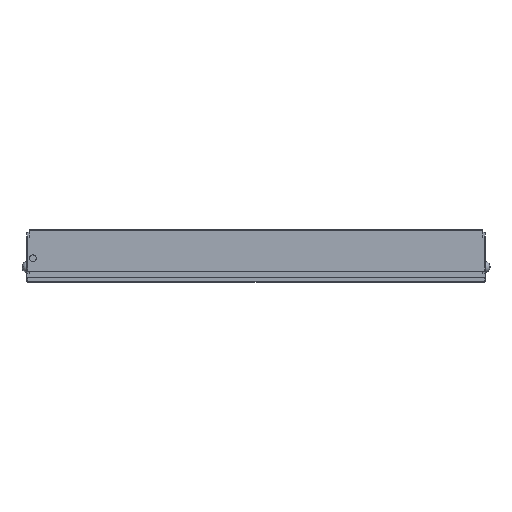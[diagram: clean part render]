
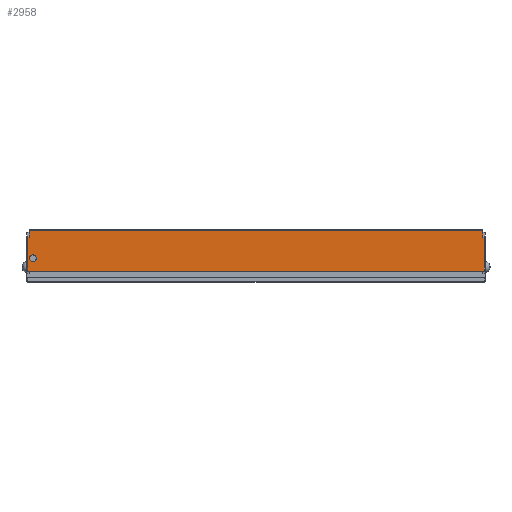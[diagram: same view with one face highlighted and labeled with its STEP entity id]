
A CAD part, top view. The second image highlights one B-rep face of the part: STEP entity #2958.
In plain terms, the highlighted planar face has unit normal (0, 0, 1) as drawn and (1, 0, 0) by its records, which use the part's own axes.
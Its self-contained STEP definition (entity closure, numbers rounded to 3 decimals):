
#332=DIRECTION('',(0.,1.,0.));
#333=VECTOR('',#332,17.499);
#334=CARTESIAN_POINT('',(9.,-4.3,-118.));
#335=LINE('',#334,#333);
#735=DIRECTION('',(0.,0.,1.));
#736=VECTOR('',#735,1.);
#737=CARTESIAN_POINT('',(9.,13.197,117.));
#738=LINE('',#737,#736);
#759=DIRECTION('',(0.,-1.,0.));
#760=VECTOR('',#759,3.303);
#761=CARTESIAN_POINT('',(9.,16.5,117.));
#762=LINE('',#761,#760);
#827=CARTESIAN_POINT('',(9.,2.3,115.25));
#828=DIRECTION('',(1.,0.,0.));
#829=DIRECTION('',(0.,0.,-1.));
#830=AXIS2_PLACEMENT_3D('',#827,#828,#829);
#832=CARTESIAN_POINT('',(9.,2.3,115.25));
#833=DIRECTION('',(1.,0.,0.));
#834=DIRECTION('',(0.,0.,1.));
#835=AXIS2_PLACEMENT_3D('',#832,#833,#834);
#837=DIRECTION('',(0.,-1.,0.));
#838=VECTOR('',#837,3.301);
#839=CARTESIAN_POINT('',(9.,16.5,-117.));
#840=LINE('',#839,#838);
#841=DIRECTION('',(0.,0.,-1.));
#842=VECTOR('',#841,1.);
#843=CARTESIAN_POINT('',(9.,13.199,-117.));
#844=LINE('',#843,#842);
#845=DIRECTION('',(0.,0.,1.));
#846=VECTOR('',#845,236.);
#847=CARTESIAN_POINT('',(9.,-4.3,-118.));
#848=LINE('',#847,#846);
#849=DIRECTION('',(0.,0.,-1.));
#850=VECTOR('',#849,234.);
#851=CARTESIAN_POINT('',(9.,16.5,117.));
#852=LINE('',#851,#850);
#1391=DIRECTION('',(0.,-1.,0.));
#1392=VECTOR('',#1391,17.497);
#1393=CARTESIAN_POINT('',(9.,13.197,118.));
#1394=LINE('',#1393,#1392);
#1720=CARTESIAN_POINT('',(9.,13.197,118.));
#1722=VERTEX_POINT('',#1720);
#1723=CARTESIAN_POINT('',(9.,-4.3,118.));
#1724=VERTEX_POINT('',#1723);
#1787=CARTESIAN_POINT('',(9.,16.5,-117.));
#1789=VERTEX_POINT('',#1787);
#1801=CARTESIAN_POINT('',(9.,16.5,117.));
#1802=VERTEX_POINT('',#1801);
#1803=CARTESIAN_POINT('',(9.,2.3,117.));
#1805=VERTEX_POINT('',#1803);
#1809=CARTESIAN_POINT('',(9.,2.3,113.5));
#1810=VERTEX_POINT('',#1809);
#1823=CARTESIAN_POINT('',(9.,13.197,117.));
#1824=VERTEX_POINT('',#1823);
#1921=CARTESIAN_POINT('',(9.,13.199,-118.));
#1923=VERTEX_POINT('',#1921);
#1925=CARTESIAN_POINT('',(9.,-4.3,-118.));
#1926=VERTEX_POINT('',#1925);
#1965=CARTESIAN_POINT('',(9.,13.199,-117.));
#1967=VERTEX_POINT('',#1965);
#2935=CARTESIAN_POINT('',(9.,-4.3,117.));
#2936=DIRECTION('',(1.,0.,0.));
#2937=DIRECTION('',(0.,1.,0.));
#2938=AXIS2_PLACEMENT_3D('',#2935,#2936,#2937);
#2939=PLANE('',#2938);
#2940=ORIENTED_EDGE('',*,*,#2030,.T.);
#2941=ORIENTED_EDGE('',*,*,#2375,.T.);
#2942=ORIENTED_EDGE('',*,*,#2359,.F.);
#2944=ORIENTED_EDGE('',*,*,#2943,.T.);
#2946=ORIENTED_EDGE('',*,*,#2945,.F.);
#2947=ORIENTED_EDGE('',*,*,#2792,.F.);
#2948=ORIENTED_EDGE('',*,*,#2819,.F.);
#2949=ORIENTED_EDGE('',*,*,#2928,.T.);
#2950=EDGE_LOOP('',(#2940,#2941,#2942,#2944,#2946,#2947,#2948,#2949));
#2951=FACE_OUTER_BOUND('',#2950,.F.);
#2953=ORIENTED_EDGE('',*,*,#2952,.T.);
#2955=ORIENTED_EDGE('',*,*,#2954,.T.);
#2956=EDGE_LOOP('',(#2953,#2955));
#2957=FACE_BOUND('',#2956,.F.);
#831=CIRCLE('',#830,1.75);
#836=CIRCLE('',#835,1.75);
#2030=EDGE_CURVE('',#1789,#1967,#840,.T.);
#2359=EDGE_CURVE('',#1926,#1923,#335,.T.);
#2375=EDGE_CURVE('',#1967,#1923,#844,.T.);
#2792=EDGE_CURVE('',#1824,#1722,#738,.T.);
#2819=EDGE_CURVE('',#1802,#1824,#762,.T.);
#2928=EDGE_CURVE('',#1802,#1789,#852,.T.);
#2943=EDGE_CURVE('',#1926,#1724,#848,.T.);
#2945=EDGE_CURVE('',#1722,#1724,#1394,.T.);
#2952=EDGE_CURVE('',#1810,#1805,#831,.T.);
#2954=EDGE_CURVE('',#1805,#1810,#836,.T.);
#2958=ADVANCED_FACE('',(#2951,#2957),#2939,.T.);
